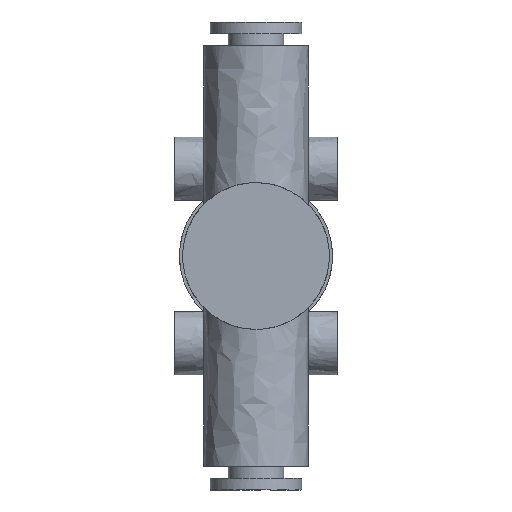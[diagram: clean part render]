
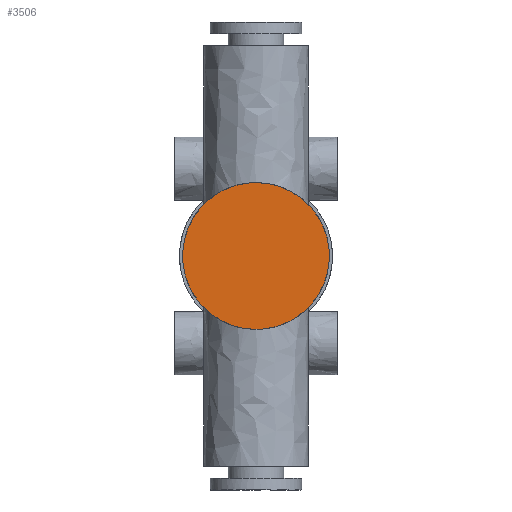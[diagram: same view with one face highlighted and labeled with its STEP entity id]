
A CAD part, front view. The second image highlights one B-rep face of the part: STEP entity #3506.
In plain terms, the highlighted planar face has unit normal (0, -1, 0).
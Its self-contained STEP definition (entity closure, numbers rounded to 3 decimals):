
#30 = CARTESIAN_POINT ( 'NONE',  ( 18.5, -7.4, -9.25 ) ) ;
#167 = ORIENTED_EDGE ( 'NONE', *, *, #2090, .F. ) ;
#298 = VERTEX_POINT ( 'NONE', #2500 ) ;
#310 = FACE_OUTER_BOUND ( 'NONE', #789, .T. ) ;
#347 = DIRECTION ( 'NONE',  ( 0., -1., 0. ) ) ;
#789 = EDGE_LOOP ( 'NONE', ( #2937, #167 ) ) ;
#800 = EDGE_CURVE ( 'NONE', #298, #1096, #3524, .T. ) ;
#888 = CARTESIAN_POINT ( 'NONE',  ( 0., -7.4, -9.25 ) ) ;
#1096 = VERTEX_POINT ( 'NONE', #2598 ) ;
#1139 =( BOUNDED_CURVE ( )  B_SPLINE_CURVE ( 3, ( #888, #3095, #3570, #2436 ),
 .UNSPECIFIED., .F., .F. ) 
 B_SPLINE_CURVE_WITH_KNOTS ( ( 4, 4 ),
 ( 0.5, 1. ),
 .UNSPECIFIED. ) 
 CURVE ( )  GEOMETRIC_REPRESENTATION_ITEM ( )  RATIONAL_B_SPLINE_CURVE ( ( 1., 0.333, 0.333, 1. ) ) 
 REPRESENTATION_ITEM ( '' )  );
#1381 = CARTESIAN_POINT ( 'NONE',  ( 0., -7.4, -9.25 ) ) ;
#1925 = CARTESIAN_POINT ( 'NONE',  ( 0., -7.4, 9.25 ) ) ;
#1954 = AXIS2_PLACEMENT_3D ( 'NONE', #2772, #347, #2807 ) ;
#2090 = EDGE_CURVE ( 'NONE', #1096, #298, #1139, .T. ) ;
#2436 = CARTESIAN_POINT ( 'NONE',  ( 0., -7.4, 9.25 ) ) ;
#2500 = CARTESIAN_POINT ( 'NONE',  ( 0., -7.4, 9.25 ) ) ;
#2598 = CARTESIAN_POINT ( 'NONE',  ( 0., -7.4, -9.25 ) ) ;
#2759 = CARTESIAN_POINT ( 'NONE',  ( 18.5, -7.4, 9.25 ) ) ;
#2772 = CARTESIAN_POINT ( 'NONE',  ( -9.361, -7.4, 9.361 ) ) ;
#2807 = DIRECTION ( 'NONE',  ( 0., 0., -1. ) ) ;
#2937 = ORIENTED_EDGE ( 'NONE', *, *, #800, .F. ) ;
#3057 = PLANE ( 'NONE',  #1954 ) ;
#3095 = CARTESIAN_POINT ( 'NONE',  ( -18.5, -7.4, -9.25 ) ) ;
#3506 = ADVANCED_FACE ( 'NONE', ( #310 ), #3057, .T. ) ;
#3524 =( BOUNDED_CURVE ( )  B_SPLINE_CURVE ( 3, ( #1925, #2759, #30, #1381 ),
 .UNSPECIFIED., .F., .T. ) 
 B_SPLINE_CURVE_WITH_KNOTS ( ( 4, 4 ),
 ( 0., 0.5 ),
 .UNSPECIFIED. ) 
 CURVE ( )  GEOMETRIC_REPRESENTATION_ITEM ( )  RATIONAL_B_SPLINE_CURVE ( ( 1., 0.333, 0.333, 1. ) ) 
 REPRESENTATION_ITEM ( '' )  );
#3570 = CARTESIAN_POINT ( 'NONE',  ( -18.5, -7.4, 9.25 ) ) ;
